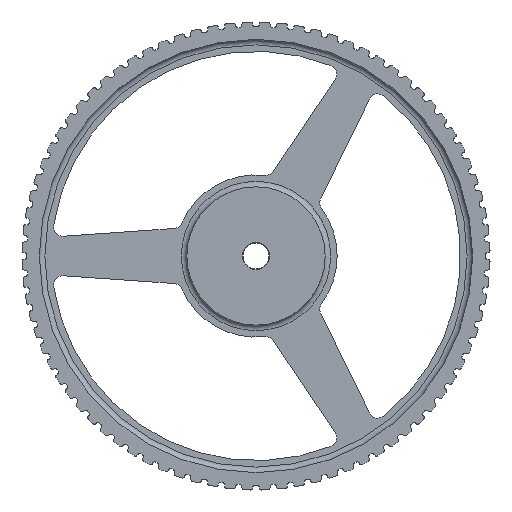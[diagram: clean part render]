
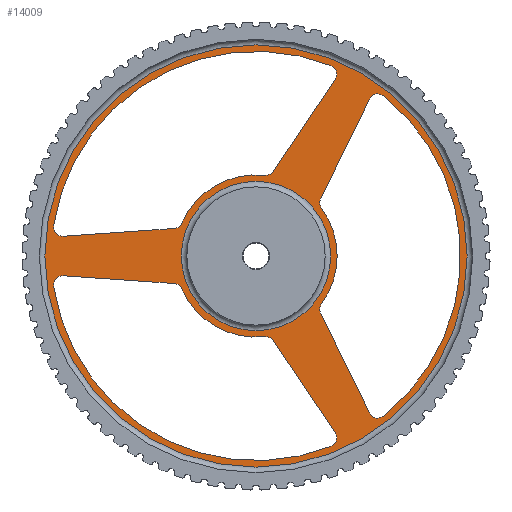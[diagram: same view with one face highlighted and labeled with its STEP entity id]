
A CAD part, left-side view. The second image highlights one B-rep face of the part: STEP entity #14009.
In plain terms, the highlighted planar face has unit normal (-1, 0, 0).
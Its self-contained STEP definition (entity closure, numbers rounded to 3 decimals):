
#30=FACE_BOUND('',#1732,.T.);
#31=FACE_BOUND('',#1733,.T.);
#32=FACE_BOUND('',#1734,.T.);
#33=FACE_BOUND('',#1735,.T.);
#297=PLANE('',#15643);
#1009=FACE_OUTER_BOUND('',#1731,.T.);
#1731=EDGE_LOOP('',(#12819));
#1732=EDGE_LOOP('',(#12820,#12821,#12822,#12823,#12824,#12825,#12826,#12827));
#1733=EDGE_LOOP('',(#12828,#12829,#12830,#12831,#12832,#12833,#12834,#12835));
#1734=EDGE_LOOP('',(#12836,#12837,#12838,#12839,#12840,#12841,#12842,#12843));
#1735=EDGE_LOOP('',(#12844));
#2916=LINE('',#24149,#4136);
#2922=LINE('',#24173,#4142);
#2928=LINE('',#24197,#4148);
#2934=LINE('',#24221,#4154);
#2940=LINE('',#24245,#4160);
#2946=LINE('',#24269,#4166);
#4136=VECTOR('',#19866,10.);
#4142=VECTOR('',#19892,10.);
#4148=VECTOR('',#19918,10.);
#4154=VECTOR('',#19944,10.);
#4160=VECTOR('',#19970,10.);
#4166=VECTOR('',#19996,10.);
#5019=CIRCLE('',#15550,5.);
#5021=CIRCLE('',#15554,5.);
#5023=CIRCLE('',#15557,111.);
#5025=CIRCLE('',#15560,5.);
#5027=CIRCLE('',#15564,5.);
#5029=CIRCLE('',#15567,44.);
#5031=CIRCLE('',#15570,5.);
#5033=CIRCLE('',#15574,5.);
#5035=CIRCLE('',#15577,111.);
#5037=CIRCLE('',#15580,5.);
#5039=CIRCLE('',#15584,5.);
#5041=CIRCLE('',#15587,44.);
#5043=CIRCLE('',#15590,5.);
#5045=CIRCLE('',#15594,5.);
#5047=CIRCLE('',#15597,111.);
#5049=CIRCLE('',#15600,5.);
#5051=CIRCLE('',#15604,5.);
#5053=CIRCLE('',#15607,44.);
#5074=CIRCLE('',#15642,40.5);
#5075=CIRCLE('',#15644,114.5);
#6424=VERTEX_POINT('',#24139);
#6425=VERTEX_POINT('',#24140);
#6428=VERTEX_POINT('',#24148);
#6430=VERTEX_POINT('',#24154);
#6432=VERTEX_POINT('',#24160);
#6434=VERTEX_POINT('',#24166);
#6436=VERTEX_POINT('',#24172);
#6438=VERTEX_POINT('',#24178);
#6440=VERTEX_POINT('',#24187);
#6441=VERTEX_POINT('',#24188);
#6444=VERTEX_POINT('',#24196);
#6446=VERTEX_POINT('',#24202);
#6448=VERTEX_POINT('',#24208);
#6450=VERTEX_POINT('',#24214);
#6452=VERTEX_POINT('',#24220);
#6454=VERTEX_POINT('',#24226);
#6456=VERTEX_POINT('',#24235);
#6457=VERTEX_POINT('',#24236);
#6460=VERTEX_POINT('',#24244);
#6462=VERTEX_POINT('',#24250);
#6464=VERTEX_POINT('',#24256);
#6466=VERTEX_POINT('',#24262);
#6468=VERTEX_POINT('',#24268);
#6470=VERTEX_POINT('',#24274);
#6488=VERTEX_POINT('',#24337);
#6489=VERTEX_POINT('',#24341);
#8509=EDGE_CURVE('',#6424,#6425,#5019,.T.);
#8513=EDGE_CURVE('',#6425,#6428,#2916,.T.);
#8516=EDGE_CURVE('',#6428,#6430,#5021,.T.);
#8519=EDGE_CURVE('',#6430,#6432,#5023,.T.);
#8522=EDGE_CURVE('',#6432,#6434,#5025,.T.);
#8525=EDGE_CURVE('',#6434,#6436,#2922,.T.);
#8528=EDGE_CURVE('',#6436,#6438,#5027,.T.);
#8531=EDGE_CURVE('',#6438,#6424,#5029,.T.);
#8533=EDGE_CURVE('',#6440,#6441,#5031,.T.);
#8537=EDGE_CURVE('',#6441,#6444,#2928,.T.);
#8540=EDGE_CURVE('',#6444,#6446,#5033,.T.);
#8543=EDGE_CURVE('',#6446,#6448,#5035,.T.);
#8546=EDGE_CURVE('',#6448,#6450,#5037,.T.);
#8549=EDGE_CURVE('',#6450,#6452,#2934,.T.);
#8552=EDGE_CURVE('',#6452,#6454,#5039,.T.);
#8555=EDGE_CURVE('',#6454,#6440,#5041,.T.);
#8557=EDGE_CURVE('',#6456,#6457,#5043,.T.);
#8561=EDGE_CURVE('',#6457,#6460,#2940,.T.);
#8564=EDGE_CURVE('',#6460,#6462,#5045,.T.);
#8567=EDGE_CURVE('',#6462,#6464,#5047,.T.);
#8570=EDGE_CURVE('',#6464,#6466,#5049,.T.);
#8573=EDGE_CURVE('',#6466,#6468,#2946,.T.);
#8576=EDGE_CURVE('',#6468,#6470,#5051,.T.);
#8579=EDGE_CURVE('',#6470,#6456,#5053,.T.);
#8607=EDGE_CURVE('',#6488,#6488,#5074,.T.);
#8608=EDGE_CURVE('',#6489,#6489,#5075,.T.);
#12819=ORIENTED_EDGE('',*,*,#8608,.F.);
#12820=ORIENTED_EDGE('',*,*,#8509,.T.);
#12821=ORIENTED_EDGE('',*,*,#8513,.T.);
#12822=ORIENTED_EDGE('',*,*,#8516,.T.);
#12823=ORIENTED_EDGE('',*,*,#8519,.T.);
#12824=ORIENTED_EDGE('',*,*,#8522,.T.);
#12825=ORIENTED_EDGE('',*,*,#8525,.T.);
#12826=ORIENTED_EDGE('',*,*,#8528,.T.);
#12827=ORIENTED_EDGE('',*,*,#8531,.T.);
#12828=ORIENTED_EDGE('',*,*,#8533,.T.);
#12829=ORIENTED_EDGE('',*,*,#8537,.T.);
#12830=ORIENTED_EDGE('',*,*,#8540,.T.);
#12831=ORIENTED_EDGE('',*,*,#8543,.T.);
#12832=ORIENTED_EDGE('',*,*,#8546,.T.);
#12833=ORIENTED_EDGE('',*,*,#8549,.T.);
#12834=ORIENTED_EDGE('',*,*,#8552,.T.);
#12835=ORIENTED_EDGE('',*,*,#8555,.T.);
#12836=ORIENTED_EDGE('',*,*,#8557,.T.);
#12837=ORIENTED_EDGE('',*,*,#8561,.T.);
#12838=ORIENTED_EDGE('',*,*,#8564,.T.);
#12839=ORIENTED_EDGE('',*,*,#8567,.T.);
#12840=ORIENTED_EDGE('',*,*,#8570,.T.);
#12841=ORIENTED_EDGE('',*,*,#8573,.T.);
#12842=ORIENTED_EDGE('',*,*,#8576,.T.);
#12843=ORIENTED_EDGE('',*,*,#8579,.T.);
#12844=ORIENTED_EDGE('',*,*,#8607,.T.);
#14009=ADVANCED_FACE('',(#1009,#30,#31,#32,#33),#297,.T.);
#15550=AXIS2_PLACEMENT_3D('',#24141,#19858,#19859);
#15554=AXIS2_PLACEMENT_3D('',#24155,#19871,#19872);
#15557=AXIS2_PLACEMENT_3D('',#24161,#19878,#19879);
#15560=AXIS2_PLACEMENT_3D('',#24167,#19885,#19886);
#15564=AXIS2_PLACEMENT_3D('',#24179,#19897,#19898);
#15567=AXIS2_PLACEMENT_3D('',#24184,#19904,#19905);
#15570=AXIS2_PLACEMENT_3D('',#24189,#19910,#19911);
#15574=AXIS2_PLACEMENT_3D('',#24203,#19923,#19924);
#15577=AXIS2_PLACEMENT_3D('',#24209,#19930,#19931);
#15580=AXIS2_PLACEMENT_3D('',#24215,#19937,#19938);
#15584=AXIS2_PLACEMENT_3D('',#24227,#19949,#19950);
#15587=AXIS2_PLACEMENT_3D('',#24232,#19956,#19957);
#15590=AXIS2_PLACEMENT_3D('',#24237,#19962,#19963);
#15594=AXIS2_PLACEMENT_3D('',#24251,#19975,#19976);
#15597=AXIS2_PLACEMENT_3D('',#24257,#19982,#19983);
#15600=AXIS2_PLACEMENT_3D('',#24263,#19989,#19990);
#15604=AXIS2_PLACEMENT_3D('',#24275,#20001,#20002);
#15607=AXIS2_PLACEMENT_3D('',#24280,#20008,#20009);
#15642=AXIS2_PLACEMENT_3D('',#24339,#20085,#20086);
#15643=AXIS2_PLACEMENT_3D('',#24340,#20087,#20088);
#15644=AXIS2_PLACEMENT_3D('',#24342,#20089,#20090);
#19858=DIRECTION('center_axis',(1.,0.,0.));
#19859=DIRECTION('ref_axis',(0.,-0.914,-0.406));
#19866=DIRECTION('',(0.,0.998,-0.07));
#19871=DIRECTION('center_axis',(1.,0.,0.));
#19872=DIRECTION('ref_axis',(0.,-0.07,-0.998));
#19878=DIRECTION('center_axis',(1.,0.,0.));
#19879=DIRECTION('ref_axis',(0.,0.989,0.148));
#19885=DIRECTION('center_axis',(1.,0.,0.));
#19886=DIRECTION('ref_axis',(0.,-0.366,0.931));
#19892=DIRECTION('',(0.,0.559,-0.829));
#19897=DIRECTION('center_axis',(1.,0.,0.));
#19898=DIRECTION('ref_axis',(0.,-0.829,-0.559));
#19904=DIRECTION('center_axis',(-1.,0.,0.));
#19905=DIRECTION('ref_axis',(0.,-0.914,-0.406));
#19910=DIRECTION('center_axis',(1.,0.,0.));
#19911=DIRECTION('ref_axis',(0.,0.105,0.994));
#19918=DIRECTION('',(0.,-0.559,-0.829));
#19923=DIRECTION('center_axis',(1.,0.,0.));
#19924=DIRECTION('ref_axis',(0.,-0.829,0.559));
#19930=DIRECTION('center_axis',(1.,0.,0.));
#19931=DIRECTION('ref_axis',(0.,-0.366,-0.931));
#19937=DIRECTION('center_axis',(1.,0.,0.));
#19938=DIRECTION('ref_axis',(0.,0.989,-0.148));
#19944=DIRECTION('',(0.,-0.998,-0.07));
#19949=DIRECTION('center_axis',(1.,0.,0.));
#19950=DIRECTION('ref_axis',(0.,-0.07,0.998));
#19956=DIRECTION('center_axis',(-1.,0.,0.));
#19957=DIRECTION('ref_axis',(0.,0.105,0.994));
#19962=DIRECTION('center_axis',(1.,0.,0.));
#19963=DIRECTION('ref_axis',(0.,0.809,-0.588));
#19970=DIRECTION('',(0.,-0.438,0.899));
#19975=DIRECTION('center_axis',(1.,0.,0.));
#19976=DIRECTION('ref_axis',(0.,0.899,0.438));
#19982=DIRECTION('center_axis',(1.,0.,0.));
#19983=DIRECTION('ref_axis',(0.,-0.623,0.782));
#19989=DIRECTION('center_axis',(1.,0.,0.));
#19990=DIRECTION('ref_axis',(0.,-0.623,-0.782));
#19996=DIRECTION('',(0.,0.438,0.899));
#20001=DIRECTION('center_axis',(1.,0.,0.));
#20002=DIRECTION('ref_axis',(0.,0.899,-0.438));
#20008=DIRECTION('center_axis',(-1.,0.,0.));
#20009=DIRECTION('ref_axis',(0.,0.809,-0.588));
#20085=DIRECTION('center_axis',(1.,0.,0.));
#20086=DIRECTION('ref_axis',(0.,0.,-1.));
#20087=DIRECTION('center_axis',(-1.,0.,0.));
#20088=DIRECTION('ref_axis',(0.,0.,1.));
#20089=DIRECTION('center_axis',(1.,0.,0.));
#20090=DIRECTION('ref_axis',(0.,0.,-1.));
#24139=CARTESIAN_POINT('',(11.4,40.208,17.87));
#24140=CARTESIAN_POINT('',(11.4,44.428,14.913));
#24141=CARTESIAN_POINT('Origin',(11.4,44.777,19.901));
#24148=CARTESIAN_POINT('',(11.4,104.482,10.714));
#24149=CARTESIAN_POINT('',(11.4,109.839,10.339));
#24154=CARTESIAN_POINT('',(11.4,109.775,16.442));
#24155=CARTESIAN_POINT('Origin',(11.4,104.831,15.702));
#24160=CARTESIAN_POINT('',(11.4,-40.648,103.289));
#24161=CARTESIAN_POINT('Origin',(11.4,0.,0.));
#24166=CARTESIAN_POINT('',(11.4,-42.963,95.841));
#24167=CARTESIAN_POINT('Origin',(11.4,-38.817,98.637));
#24172=CARTESIAN_POINT('',(11.4,-9.299,45.932));
#24173=CARTESIAN_POINT('',(11.4,20.704,1.451));
#24178=CARTESIAN_POINT('',(11.4,-4.628,43.756));
#24179=CARTESIAN_POINT('Origin',(11.4,-5.154,48.728));
#24184=CARTESIAN_POINT('Origin',(11.4,0.,0.));
#24187=CARTESIAN_POINT('',(11.4,-4.628,-43.756));
#24188=CARTESIAN_POINT('',(11.4,-9.299,-45.932));
#24189=CARTESIAN_POINT('Origin',(11.4,-5.154,-48.728));
#24196=CARTESIAN_POINT('',(11.4,-42.963,-95.841));
#24197=CARTESIAN_POINT('',(11.4,3.872,-26.406));
#24202=CARTESIAN_POINT('',(11.4,-40.648,-103.289));
#24203=CARTESIAN_POINT('Origin',(11.4,-38.817,-98.637));
#24208=CARTESIAN_POINT('',(11.4,109.775,-16.442));
#24209=CARTESIAN_POINT('Origin',(11.4,0.,0.));
#24214=CARTESIAN_POINT('',(11.4,104.482,-10.714));
#24215=CARTESIAN_POINT('Origin',(11.4,104.831,-15.702));
#24220=CARTESIAN_POINT('',(11.4,44.428,-14.913));
#24221=CARTESIAN_POINT('',(11.4,79.812,-12.439));
#24226=CARTESIAN_POINT('',(11.4,40.208,-17.87));
#24227=CARTESIAN_POINT('Origin',(11.4,44.777,-19.901));
#24232=CARTESIAN_POINT('Origin',(11.4,0.,0.));
#24235=CARTESIAN_POINT('',(11.4,-35.58,25.886));
#24236=CARTESIAN_POINT('',(11.4,-35.129,31.019));
#24237=CARTESIAN_POINT('Origin',(11.4,-39.623,28.827));
#24244=CARTESIAN_POINT('',(11.4,-61.519,85.127));
#24245=CARTESIAN_POINT('',(11.4,-27.836,16.067));
#24250=CARTESIAN_POINT('',(11.4,-69.127,86.847));
#24251=CARTESIAN_POINT('Origin',(11.4,-66.013,82.935));
#24256=CARTESIAN_POINT('',(11.4,-69.127,-86.847));
#24257=CARTESIAN_POINT('Origin',(11.4,0.,0.));
#24262=CARTESIAN_POINT('',(11.4,-61.519,-85.127));
#24263=CARTESIAN_POINT('Origin',(11.4,-66.013,-82.935));
#24268=CARTESIAN_POINT('',(11.4,-35.129,-31.019));
#24269=CARTESIAN_POINT('',(11.4,-14.641,10.987));
#24274=CARTESIAN_POINT('',(11.4,-35.58,-25.886));
#24275=CARTESIAN_POINT('Origin',(11.4,-39.623,-28.827));
#24280=CARTESIAN_POINT('Origin',(11.4,0.,0.));
#24337=CARTESIAN_POINT('',(11.4,0.,40.5));
#24339=CARTESIAN_POINT('Origin',(11.4,0.,0.));
#24340=CARTESIAN_POINT('Origin',(11.4,114.5,0.));
#24341=CARTESIAN_POINT('',(11.4,0.,114.5));
#24342=CARTESIAN_POINT('Origin',(11.4,0.,0.));
